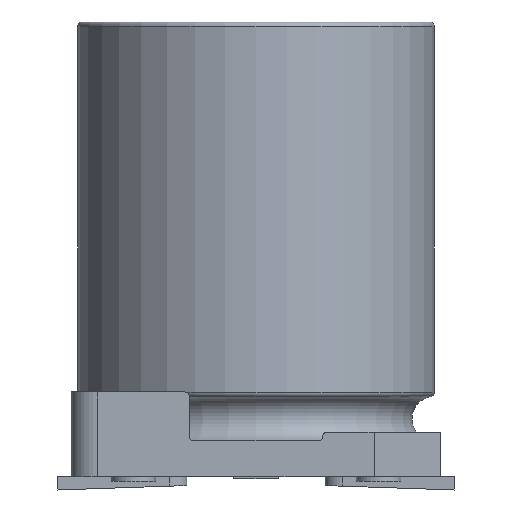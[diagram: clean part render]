
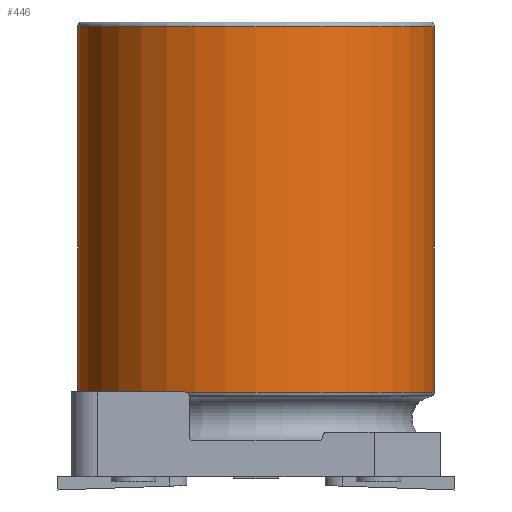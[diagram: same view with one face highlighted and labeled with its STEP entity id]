
A CAD part, front view. The second image highlights one B-rep face of the part: STEP entity #446.
In plain terms, the highlighted cylindrical face has radius 4 mm (diameter 8 mm), a full revolution.
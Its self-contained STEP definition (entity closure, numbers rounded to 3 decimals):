
#219=CYLINDRICAL_SURFACE('',#2487,4.);
#446=ADVANCED_FACE('',(#598,#599),#219,.T.);
#598=FACE_BOUND('',#672,.T.);
#599=FACE_BOUND('',#673,.T.);
#672=EDGE_LOOP('',(#1125));
#673=EDGE_LOOP('',(#1126));
#790=CIRCLE('',#2485,4.);
#791=CIRCLE('',#2486,4.);
#1125=ORIENTED_EDGE('',*,*,#1840,.T.);
#1126=ORIENTED_EDGE('',*,*,#1841,.T.);
#1591=VERTEX_POINT('',#3752);
#1592=VERTEX_POINT('',#3754);
#1840=EDGE_CURVE('',#1591,#1591,#790,.T.);
#1841=EDGE_CURVE('',#1592,#1592,#791,.T.);
#2485=AXIS2_PLACEMENT_3D('',#3751,#2909,#2910);
#2486=AXIS2_PLACEMENT_3D('',#3753,#2911,#2912);
#2487=AXIS2_PLACEMENT_3D('',#3755,#2913,#2914);
#2909=DIRECTION('',(0.,0.,1.));
#2910=DIRECTION('',(1.,0.,0.));
#2911=DIRECTION('',(0.,0.,-1.));
#2912=DIRECTION('',(-1.,0.,0.));
#2913=DIRECTION('',(0.,0.,-1.));
#2914=DIRECTION('',(-1.,0.,0.));
#3751=CARTESIAN_POINT('',(0.,0.,1.892));
#3752=CARTESIAN_POINT('',(4.,0.,1.892));
#3753=CARTESIAN_POINT('',(0.,0.,10.1));
#3754=CARTESIAN_POINT('',(-4.,0.,10.1));
#3755=CARTESIAN_POINT('',(0.,0.,0.));
